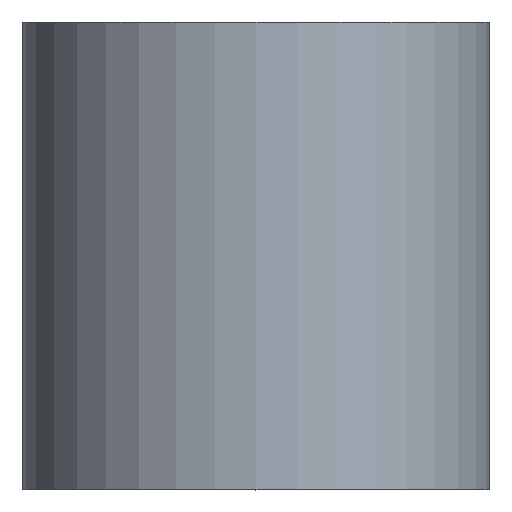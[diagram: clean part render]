
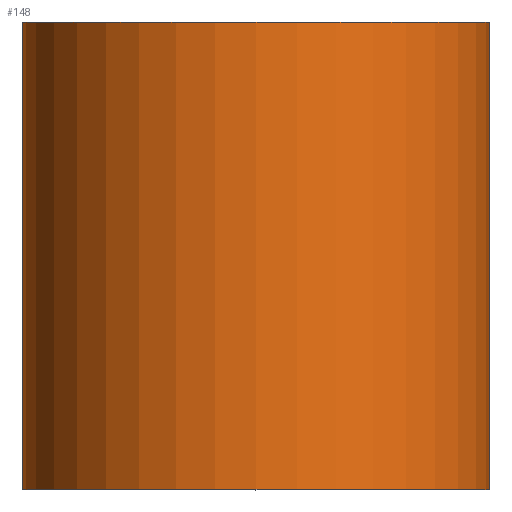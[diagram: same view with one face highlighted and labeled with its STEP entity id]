
A CAD part, top view. The second image highlights one B-rep face of the part: STEP entity #148.
In plain terms, the highlighted cylindrical face has radius 4 mm (diameter 8 mm), a full revolution.
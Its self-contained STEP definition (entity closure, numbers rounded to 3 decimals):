
#22=LINE('',#332,#28);
#28=VECTOR('',#218,4.);
#34=CYLINDRICAL_SURFACE('',#182,4.);
#45=FACE_OUTER_BOUND('',#57,.T.);
#57=EDGE_LOOP('',(#120,#121,#122,#123));
#68=CIRCLE('',#183,4.);
#69=CIRCLE('',#184,4.);
#80=VERTEX_POINT('',#329);
#81=VERTEX_POINT('',#331);
#95=EDGE_CURVE('',#80,#80,#68,.T.);
#96=EDGE_CURVE('',#80,#81,#22,.T.);
#97=EDGE_CURVE('',#81,#81,#69,.T.);
#120=ORIENTED_EDGE('',*,*,#95,.F.);
#121=ORIENTED_EDGE('',*,*,#96,.T.);
#122=ORIENTED_EDGE('',*,*,#97,.T.);
#123=ORIENTED_EDGE('',*,*,#96,.F.);
#148=ADVANCED_FACE('',(#45),#34,.T.);
#182=AXIS2_PLACEMENT_3D('',#328,#214,#215);
#183=AXIS2_PLACEMENT_3D('',#330,#216,#217);
#184=AXIS2_PLACEMENT_3D('',#333,#219,#220);
#214=DIRECTION('center_axis',(0.,-1.,0.));
#215=DIRECTION('ref_axis',(0.,0.,-1.));
#216=DIRECTION('center_axis',(0.,-1.,0.));
#217=DIRECTION('ref_axis',(1.,0.,0.));
#218=DIRECTION('',(0.,1.,0.));
#219=DIRECTION('center_axis',(0.,-1.,0.));
#220=DIRECTION('ref_axis',(1.,0.,0.));
#328=CARTESIAN_POINT('Origin',(0.,4.,0.));
#329=CARTESIAN_POINT('',(0.,0.,4.));
#330=CARTESIAN_POINT('Origin',(0.,0.,0.));
#331=CARTESIAN_POINT('',(0.,8.,4.));
#332=CARTESIAN_POINT('',(0.,4.,4.));
#333=CARTESIAN_POINT('Origin',(0.,8.,0.));
